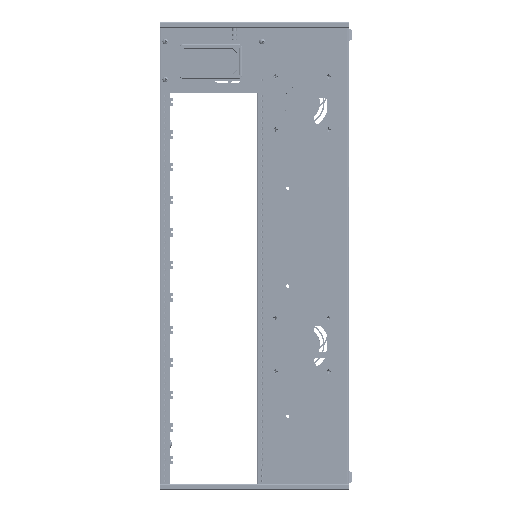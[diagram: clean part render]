
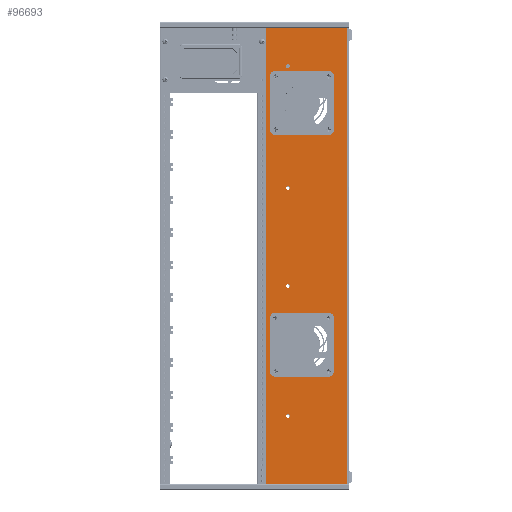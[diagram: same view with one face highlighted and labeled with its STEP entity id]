
A CAD part, left-side view. The second image highlights one B-rep face of the part: STEP entity #96693.
In plain terms, the highlighted planar face has unit normal (-1, 0, 0).
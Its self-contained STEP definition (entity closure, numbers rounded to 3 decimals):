
#811=DIRECTION('',(0.,0.,1.));
#812=VECTOR('',#811,16.8);
#813=CARTESIAN_POINT('',(0.,0.06,
-16.8));
#814=LINE('',#813,#812);
#843=DIRECTION('',(0.,-1.,0.));
#844=VECTOR('',#843,3.004);
#845=CARTESIAN_POINT('',(0.,3.064,-16.8));
#846=LINE('',#845,#844);
#847=DIRECTION('',(0.,-1.,0.));
#848=VECTOR('',#847,3.004);
#849=CARTESIAN_POINT('',(0.,3.064,0.));
#850=LINE('',#849,#848);
#851=CARTESIAN_POINT('',(0.,2.25,-1.406));
#852=DIRECTION('',(-1.,0.,0.));
#853=DIRECTION('',(0.,0.,1.));
#854=AXIS2_PLACEMENT_3D('',#851,#852,#853);
#856=CARTESIAN_POINT('',(0.,2.25,-1.406));
#857=DIRECTION('',(-1.,0.,0.));
#858=DIRECTION('',(0.,0.,-1.));
#859=AXIS2_PLACEMENT_3D('',#856,#857,#858);
#861=CARTESIAN_POINT('',(0.,2.25,-9.5));
#862=DIRECTION('',(-1.,0.,0.));
#863=DIRECTION('',(0.,0.,1.));
#864=AXIS2_PLACEMENT_3D('',#861,#862,#863);
#866=CARTESIAN_POINT('',(0.,2.25,-9.5));
#867=DIRECTION('',(-1.,0.,0.));
#868=DIRECTION('',(0.,0.,-1.));
#869=AXIS2_PLACEMENT_3D('',#866,#867,#868);
#871=CARTESIAN_POINT('',(0.,2.25,-14.3));
#872=DIRECTION('',(-1.,0.,0.));
#873=DIRECTION('',(0.,0.,1.));
#874=AXIS2_PLACEMENT_3D('',#871,#872,#873);
#876=CARTESIAN_POINT('',(0.,2.25,-14.3));
#877=DIRECTION('',(-1.,0.,0.));
#878=DIRECTION('',(0.,0.,-1.));
#879=AXIS2_PLACEMENT_3D('',#876,#877,#878);
#881=CARTESIAN_POINT('',(0.,2.25,-5.9));
#882=DIRECTION('',(-1.,0.,0.));
#883=DIRECTION('',(0.,0.,1.));
#884=AXIS2_PLACEMENT_3D('',#881,#882,#883);
#886=CARTESIAN_POINT('',(0.,2.25,-5.9));
#887=DIRECTION('',(-1.,0.,0.));
#888=DIRECTION('',(0.,0.,-1.));
#889=AXIS2_PLACEMENT_3D('',#886,#887,#888);
#891=DIRECTION('',(0.,-1.,0.));
#892=VECTOR('',#891,1.962);
#893=CARTESIAN_POINT('',(0.,2.714,-1.577));
#894=LINE('',#893,#892);
#895=CARTESIAN_POINT('',(0.,2.714,-1.777));
#896=DIRECTION('',(-1.,0.,0.));
#897=DIRECTION('',(0.,0.,1.));
#898=AXIS2_PLACEMENT_3D('',#895,#896,#897);
#900=DIRECTION('',(0.,0.,1.));
#901=VECTOR('',#900,1.962);
#902=CARTESIAN_POINT('',(0.,2.914,-3.739));
#903=LINE('',#902,#901);
#904=CARTESIAN_POINT('',(0.,2.714,-3.739));
#905=DIRECTION('',(-1.,0.,0.));
#906=DIRECTION('',(0.,1.,0.));
#907=AXIS2_PLACEMENT_3D('',#904,#905,#906);
#909=DIRECTION('',(0.,1.,0.));
#910=VECTOR('',#909,1.962);
#911=CARTESIAN_POINT('',(0.,0.752,-3.939));
#912=LINE('',#911,#910);
#913=CARTESIAN_POINT('',(0.,0.752,-3.739));
#914=DIRECTION('',(-1.,0.,0.));
#915=DIRECTION('',(0.,0.,-1.));
#916=AXIS2_PLACEMENT_3D('',#913,#914,#915);
#918=DIRECTION('',(0.,0.,-1.));
#919=VECTOR('',#918,1.962);
#920=CARTESIAN_POINT('',(0.,0.552,-1.777));
#921=LINE('',#920,#919);
#922=CARTESIAN_POINT('',(0.,0.752,-1.777));
#923=DIRECTION('',(-1.,0.,0.));
#924=DIRECTION('',(0.,-1.,0.));
#925=AXIS2_PLACEMENT_3D('',#922,#923,#924);
#927=DIRECTION('',(0.,-1.,0.));
#928=VECTOR('',#927,1.962);
#929=CARTESIAN_POINT('',(0.,2.714,-10.487));
#930=LINE('',#929,#928);
#931=CARTESIAN_POINT('',(0.,2.714,-10.687));
#932=DIRECTION('',(-1.,0.,0.));
#933=DIRECTION('',(0.,0.,1.));
#934=AXIS2_PLACEMENT_3D('',#931,#932,#933);
#936=DIRECTION('',(0.,0.,1.));
#937=VECTOR('',#936,1.962);
#938=CARTESIAN_POINT('',(0.,2.914,-12.649));
#939=LINE('',#938,#937);
#940=CARTESIAN_POINT('',(0.,2.714,-12.649));
#941=DIRECTION('',(-1.,0.,0.));
#942=DIRECTION('',(0.,1.,0.));
#943=AXIS2_PLACEMENT_3D('',#940,#941,#942);
#945=DIRECTION('',(0.,1.,0.));
#946=VECTOR('',#945,1.962);
#947=CARTESIAN_POINT('',(0.,0.752,-12.849));
#948=LINE('',#947,#946);
#949=CARTESIAN_POINT('',(0.,0.752,-12.649));
#950=DIRECTION('',(-1.,0.,0.));
#951=DIRECTION('',(0.,0.,-1.));
#952=AXIS2_PLACEMENT_3D('',#949,#950,#951);
#954=DIRECTION('',(0.,0.,-1.));
#955=VECTOR('',#954,1.962);
#956=CARTESIAN_POINT('',(0.,0.552,-10.687));
#957=LINE('',#956,#955);
#958=CARTESIAN_POINT('',(0.,0.752,-10.687));
#959=DIRECTION('',(-1.,0.,0.));
#960=DIRECTION('',(0.,-1.,0.));
#961=AXIS2_PLACEMENT_3D('',#958,#959,#960);
#3980=DIRECTION('',(0.,0.,-1.));
#3981=VECTOR('',#3980,16.8);
#3982=CARTESIAN_POINT('',(0.,3.064,0.));
#3983=LINE('',#3982,#3981);
#74643=CARTESIAN_POINT('',(0.,2.25,-14.23));
#74644=CARTESIAN_POINT('',(0.,2.25,-14.37));
#74645=VERTEX_POINT('',#74643);
#74646=VERTEX_POINT('',#74644);
#74651=CARTESIAN_POINT('',(0.,2.25,-9.43));
#74652=CARTESIAN_POINT('',(0.,2.25,-9.57));
#74653=VERTEX_POINT('',#74651);
#74654=VERTEX_POINT('',#74652);
#74659=CARTESIAN_POINT('',(0.,2.25,-5.83));
#74660=CARTESIAN_POINT('',(0.,2.25,-5.97));
#74661=VERTEX_POINT('',#74659);
#74662=VERTEX_POINT('',#74660);
#74667=CARTESIAN_POINT('',(0.,2.25,-1.336));
#74668=CARTESIAN_POINT('',(0.,2.25,-1.476));
#74669=VERTEX_POINT('',#74667);
#74670=VERTEX_POINT('',#74668);
#86452=CARTESIAN_POINT('',(0.,2.714,-1.577));
#86453=CARTESIAN_POINT('',(0.,0.752,-1.577));
#86454=VERTEX_POINT('',#86452);
#86455=VERTEX_POINT('',#86453);
#86456=CARTESIAN_POINT('',(0.,0.552,-1.777));
#86457=CARTESIAN_POINT('',(0.,0.552,-3.739));
#86458=VERTEX_POINT('',#86456);
#86459=VERTEX_POINT('',#86457);
#86460=CARTESIAN_POINT('',(0.,0.752,-3.939));
#86461=CARTESIAN_POINT('',(0.,2.714,-3.939));
#86462=VERTEX_POINT('',#86460);
#86463=VERTEX_POINT('',#86461);
#86464=CARTESIAN_POINT('',(0.,2.914,-3.739));
#86465=CARTESIAN_POINT('',(0.,2.914,-1.777));
#86466=VERTEX_POINT('',#86464);
#86467=VERTEX_POINT('',#86465);
#86860=CARTESIAN_POINT('',(0.,2.714,-10.487));
#86861=CARTESIAN_POINT('',(0.,0.752,-10.487));
#86862=VERTEX_POINT('',#86860);
#86863=VERTEX_POINT('',#86861);
#86864=CARTESIAN_POINT('',(0.,0.552,-10.687));
#86865=CARTESIAN_POINT('',(0.,0.552,-12.649));
#86866=VERTEX_POINT('',#86864);
#86867=VERTEX_POINT('',#86865);
#86868=CARTESIAN_POINT('',(0.,0.752,-12.849));
#86869=CARTESIAN_POINT('',(0.,2.714,-12.849));
#86870=VERTEX_POINT('',#86868);
#86871=VERTEX_POINT('',#86869);
#86872=CARTESIAN_POINT('',(0.,2.914,-12.649));
#86873=CARTESIAN_POINT('',(0.,2.914,-10.687));
#86874=VERTEX_POINT('',#86872);
#86875=VERTEX_POINT('',#86873);
#88404=CARTESIAN_POINT('',(0.,3.064,-16.8));
#88405=CARTESIAN_POINT('',(0.,0.06,
-16.8));
#88406=VERTEX_POINT('',#88404);
#88407=VERTEX_POINT('',#88405);
#91023=CARTESIAN_POINT('',(0.,3.064,0.));
#91024=CARTESIAN_POINT('',(0.,0.06,
0.));
#91025=VERTEX_POINT('',#91023);
#91026=VERTEX_POINT('',#91024);
#96620=CARTESIAN_POINT('',(0.,0.,0.));
#96621=DIRECTION('',(-1.,0.,0.));
#96622=DIRECTION('',(0.,1.,0.));
#96623=AXIS2_PLACEMENT_3D('',#96620,#96621,#96622);
#96624=PLANE('',#96623);
#96625=ORIENTED_EDGE('',*,*,#96581,.F.);
#96627=ORIENTED_EDGE('',*,*,#96626,.F.);
#96629=ORIENTED_EDGE('',*,*,#96628,.F.);
#96630=ORIENTED_EDGE('',*,*,#96603,.T.);
#96631=EDGE_LOOP('',(#96625,#96627,#96629,#96630));
#96632=FACE_OUTER_BOUND('',#96631,.F.);
#96634=ORIENTED_EDGE('',*,*,#96633,.T.);
#96636=ORIENTED_EDGE('',*,*,#96635,.T.);
#96637=EDGE_LOOP('',(#96634,#96636));
#96638=FACE_BOUND('',#96637,.F.);
#96640=ORIENTED_EDGE('',*,*,#96639,.T.);
#96642=ORIENTED_EDGE('',*,*,#96641,.T.);
#96643=EDGE_LOOP('',(#96640,#96642));
#96644=FACE_BOUND('',#96643,.F.);
#96646=ORIENTED_EDGE('',*,*,#96645,.T.);
#96648=ORIENTED_EDGE('',*,*,#96647,.T.);
#96649=EDGE_LOOP('',(#96646,#96648));
#96650=FACE_BOUND('',#96649,.F.);
#96652=ORIENTED_EDGE('',*,*,#96651,.T.);
#96654=ORIENTED_EDGE('',*,*,#96653,.T.);
#96655=EDGE_LOOP('',(#96652,#96654));
#96656=FACE_BOUND('',#96655,.F.);
#96658=ORIENTED_EDGE('',*,*,#96657,.F.);
#96660=ORIENTED_EDGE('',*,*,#96659,.T.);
#96662=ORIENTED_EDGE('',*,*,#96661,.F.);
#96664=ORIENTED_EDGE('',*,*,#96663,.T.);
#96666=ORIENTED_EDGE('',*,*,#96665,.F.);
#96668=ORIENTED_EDGE('',*,*,#96667,.T.);
#96670=ORIENTED_EDGE('',*,*,#96669,.F.);
#96672=ORIENTED_EDGE('',*,*,#96671,.T.);
#96673=EDGE_LOOP('',(#96658,#96660,#96662,#96664,#96666,#96668,#96670,#96672));
#96674=FACE_BOUND('',#96673,.F.);
#96676=ORIENTED_EDGE('',*,*,#96675,.F.);
#96678=ORIENTED_EDGE('',*,*,#96677,.T.);
#96680=ORIENTED_EDGE('',*,*,#96679,.F.);
#96682=ORIENTED_EDGE('',*,*,#96681,.T.);
#96684=ORIENTED_EDGE('',*,*,#96683,.F.);
#96686=ORIENTED_EDGE('',*,*,#96685,.T.);
#96688=ORIENTED_EDGE('',*,*,#96687,.F.);
#96690=ORIENTED_EDGE('',*,*,#96689,.T.);
#96691=EDGE_LOOP('',(#96676,#96678,#96680,#96682,#96684,#96686,#96688,#96690));
#96692=FACE_BOUND('',#96691,.F.);
#96693=ADVANCED_FACE('',(#96632,#96638,#96644,#96650,#96656,#96674,#96692),
#96624,.T.);
#855=CIRCLE('',#854,0.07);
#860=CIRCLE('',#859,0.07);
#865=CIRCLE('',#864,0.07);
#870=CIRCLE('',#869,0.07);
#875=CIRCLE('',#874,0.07);
#880=CIRCLE('',#879,0.07);
#885=CIRCLE('',#884,0.07);
#890=CIRCLE('',#889,0.07);
#899=CIRCLE('',#898,0.2);
#908=CIRCLE('',#907,0.2);
#917=CIRCLE('',#916,0.2);
#926=CIRCLE('',#925,0.2);
#935=CIRCLE('',#934,0.2);
#944=CIRCLE('',#943,0.2);
#953=CIRCLE('',#952,0.2);
#962=CIRCLE('',#961,0.2);
#96581=EDGE_CURVE('',#88407,#91026,#814,.T.);
#96603=EDGE_CURVE('',#91025,#91026,#850,.T.);
#96626=EDGE_CURVE('',#88406,#88407,#846,.T.);
#96628=EDGE_CURVE('',#91025,#88406,#3983,.T.);
#96633=EDGE_CURVE('',#74669,#74670,#855,.T.);
#96635=EDGE_CURVE('',#74670,#74669,#860,.T.);
#96639=EDGE_CURVE('',#74653,#74654,#865,.T.);
#96641=EDGE_CURVE('',#74654,#74653,#870,.T.);
#96645=EDGE_CURVE('',#74645,#74646,#875,.T.);
#96647=EDGE_CURVE('',#74646,#74645,#880,.T.);
#96651=EDGE_CURVE('',#74661,#74662,#885,.T.);
#96653=EDGE_CURVE('',#74662,#74661,#890,.T.);
#96657=EDGE_CURVE('',#86454,#86455,#894,.T.);
#96659=EDGE_CURVE('',#86454,#86467,#899,.T.);
#96661=EDGE_CURVE('',#86466,#86467,#903,.T.);
#96663=EDGE_CURVE('',#86466,#86463,#908,.T.);
#96665=EDGE_CURVE('',#86462,#86463,#912,.T.);
#96667=EDGE_CURVE('',#86462,#86459,#917,.T.);
#96669=EDGE_CURVE('',#86458,#86459,#921,.T.);
#96671=EDGE_CURVE('',#86458,#86455,#926,.T.);
#96675=EDGE_CURVE('',#86862,#86863,#930,.T.);
#96677=EDGE_CURVE('',#86862,#86875,#935,.T.);
#96679=EDGE_CURVE('',#86874,#86875,#939,.T.);
#96681=EDGE_CURVE('',#86874,#86871,#944,.T.);
#96683=EDGE_CURVE('',#86870,#86871,#948,.T.);
#96685=EDGE_CURVE('',#86870,#86867,#953,.T.);
#96687=EDGE_CURVE('',#86866,#86867,#957,.T.);
#96689=EDGE_CURVE('',#86866,#86863,#962,.T.);
